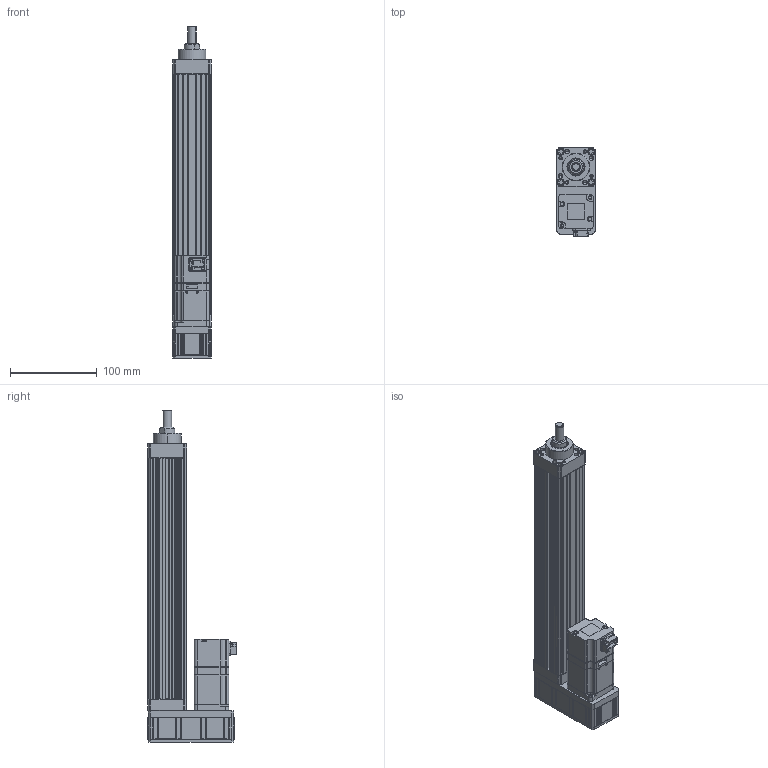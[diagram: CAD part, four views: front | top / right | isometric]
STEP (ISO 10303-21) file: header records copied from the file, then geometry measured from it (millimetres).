
FILE_DESCRIPTION (( 'STEP AP203' ), '1' );
FILE_NAME ('ANS045-P200-05(10)-W10-M.STEP', '2019-02-14T02:57:09', ( 'user' ), ( '' ), 'SwSTEP 2.0', 'SolidWorks 2013', '' );
FILE_SCHEMA (( 'CONFIG_CONTROL_DESIGN' ));
Length unit declared in the file: millimetre
Products named in the file (4): SGMJV_01A_A21; ANS045-P200-05(10)-W10-M; ANS045 P200 VER2; ANS045 ROD ST200 M
Assembly tree (3 placements, depth 2):
  ANS045-P200-05(10)-W10-M
    ANS045 P200 VER2
    ANS045 ROD ST200 M
    SGMJV_01A_A21
Bounding box: 45 x 102.3 x 383.5 mm (x, y, z)
Volume: 609739.4 mm3; surface area: 198512.4 mm2
Topology: 3 solids, 11 shells, 1060 faces, 2747 edges, 1750 vertices
Faces by surface type: plane 607, cylinder 355, cone 96, bspline 2
Entity records: 32395 total; most frequent: CARTESIAN_POINT 6241, ORIENTED_EDGE 5462, DIRECTION 5267, EDGE_CURVE 2731, LINE 1891, VECTOR 1891, VERTEX_POINT 1750, AXIS2_PLACEMENT_3D 1688
